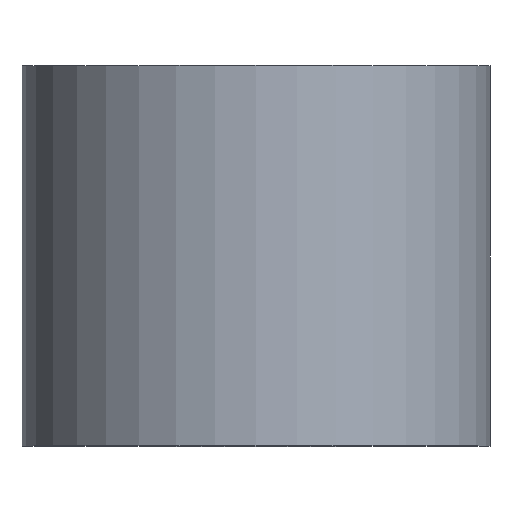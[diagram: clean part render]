
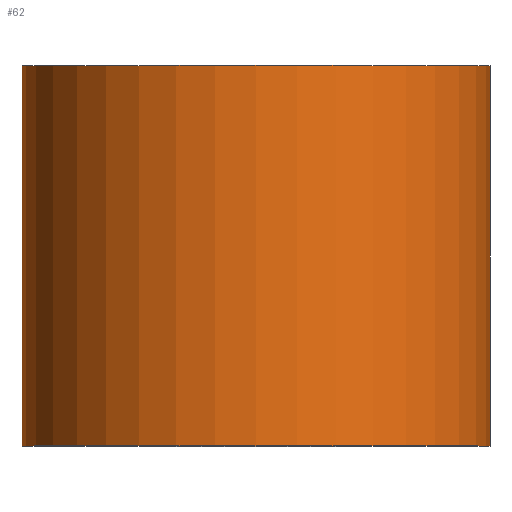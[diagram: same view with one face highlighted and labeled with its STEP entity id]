
A CAD part, top view. The second image highlights one B-rep face of the part: STEP entity #62.
In plain terms, the highlighted cylindrical face has radius 4 mm (diameter 8 mm), a full revolution.
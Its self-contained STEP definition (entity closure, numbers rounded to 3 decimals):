
#15=LINE('',#115,#17);
#17=VECTOR('',#97,4.);
#19=CYLINDRICAL_SURFACE('',#82,4.);
#24=FACE_OUTER_BOUND('',#29,.T.);
#29=EDGE_LOOP('',(#49,#50,#51,#52));
#33=CIRCLE('',#80,4.);
#35=CIRCLE('',#83,4.);
#37=VERTEX_POINT('',#109);
#39=VERTEX_POINT('',#114);
#41=EDGE_CURVE('',#37,#37,#33,.T.);
#43=EDGE_CURVE('',#37,#39,#15,.T.);
#44=EDGE_CURVE('',#39,#39,#35,.T.);
#49=ORIENTED_EDGE('',*,*,#41,.T.);
#50=ORIENTED_EDGE('',*,*,#43,.T.);
#51=ORIENTED_EDGE('',*,*,#44,.F.);
#52=ORIENTED_EDGE('',*,*,#43,.F.);
#62=ADVANCED_FACE('',(#24),#19,.T.);
#80=AXIS2_PLACEMENT_3D('',#110,#91,#92);
#82=AXIS2_PLACEMENT_3D('',#113,#95,#96);
#83=AXIS2_PLACEMENT_3D('',#116,#98,#99);
#91=DIRECTION('center_axis',(0.,1.,0.));
#92=DIRECTION('ref_axis',(1.,0.,0.));
#95=DIRECTION('center_axis',(0.,-1.,0.));
#96=DIRECTION('ref_axis',(1.,0.,0.));
#97=DIRECTION('',(0.,1.,0.));
#98=DIRECTION('center_axis',(0.,1.,0.));
#99=DIRECTION('ref_axis',(1.,0.,0.));
#109=CARTESIAN_POINT('',(11.,-4.5,0.));
#110=CARTESIAN_POINT('Origin',(15.,-4.5,0.));
#113=CARTESIAN_POINT('Origin',(15.,3.2,0.));
#114=CARTESIAN_POINT('',(11.,2.,0.));
#115=CARTESIAN_POINT('',(11.,3.2,0.));
#116=CARTESIAN_POINT('Origin',(15.,2.,0.));
